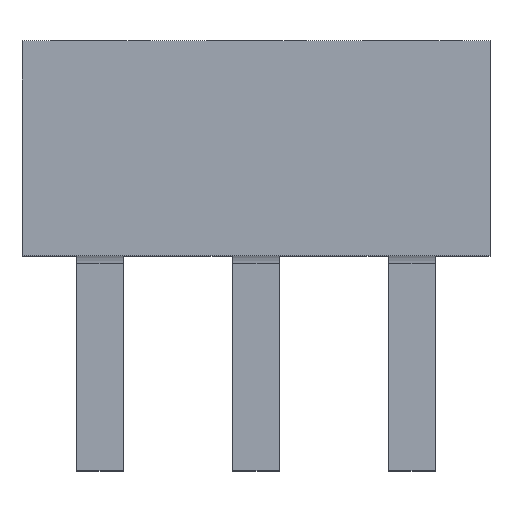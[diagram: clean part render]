
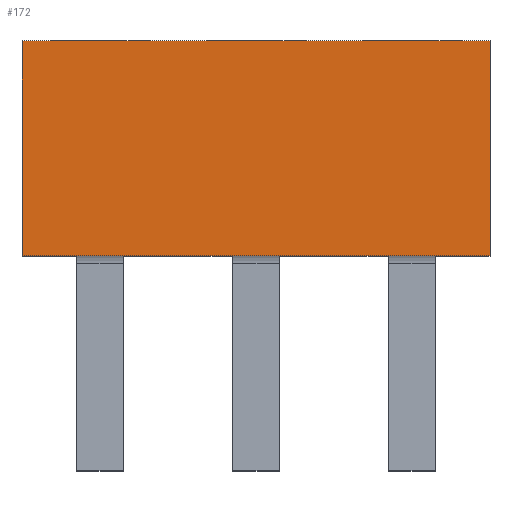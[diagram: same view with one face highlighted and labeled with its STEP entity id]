
A CAD part, top view. The second image highlights one B-rep face of the part: STEP entity #172.
In plain terms, the highlighted planar face has unit normal (0, 0, 1).
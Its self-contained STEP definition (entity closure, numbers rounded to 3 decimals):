
#172=ADVANCED_FACE('',(#468),#332,.T.);
#332=PLANE('',#3138);
#468=FACE_OUTER_BOUND('',#627,.T.);
#627=EDGE_LOOP('',(#836,#837,#838,#839));
#836=ORIENTED_EDGE('',*,*,#1942,.T.);
#837=ORIENTED_EDGE('',*,*,#1978,.T.);
#838=ORIENTED_EDGE('',*,*,#1979,.F.);
#839=ORIENTED_EDGE('',*,*,#1975,.F.);
#1662=VERTEX_POINT('',#4164);
#1663=VERTEX_POINT('',#4166);
#1694=VERTEX_POINT('',#4234);
#1696=VERTEX_POINT('',#4240);
#1942=EDGE_CURVE('',#1663,#1662,#2374,.T.);
#1975=EDGE_CURVE('',#1663,#1694,#2407,.T.);
#1978=EDGE_CURVE('',#1662,#1696,#2410,.T.);
#1979=EDGE_CURVE('',#1694,#1696,#2411,.T.);
#2374=LINE('',#4165,#2758);
#2407=LINE('',#4233,#2791);
#2410=LINE('',#4239,#2794);
#2411=LINE('',#4241,#2795);
#2758=VECTOR('',#3353,1.);
#2791=VECTOR('',#3394,1.);
#2794=VECTOR('',#3399,1.);
#2795=VECTOR('',#3400,1.);
#3138=AXIS2_PLACEMENT_3D('',#4242,#3401,#3402);
#3353=DIRECTION('',(1.,0.,0.));
#3394=DIRECTION('',(0.,1.,0.));
#3399=DIRECTION('',(0.,1.,0.));
#3400=DIRECTION('',(1.,0.,0.));
#3401=DIRECTION('',(0.,0.,1.));
#3402=DIRECTION('',(-1.,0.,0.));
#4164=CARTESIAN_POINT('',(-4.88,0.,0.));
#4165=CARTESIAN_POINT('',(-7.22,0.,0.));
#4166=CARTESIAN_POINT('',(-12.5,0.,0.));
#4233=CARTESIAN_POINT('',(-12.5,0.,0.));
#4234=CARTESIAN_POINT('',(-12.5,3.5,0.));
#4239=CARTESIAN_POINT('',(-4.88,0.,0.));
#4240=CARTESIAN_POINT('',(-4.88,3.5,0.));
#4241=CARTESIAN_POINT('',(-17.78,3.5,0.));
#4242=CARTESIAN_POINT('',(-17.78,0.,0.));
